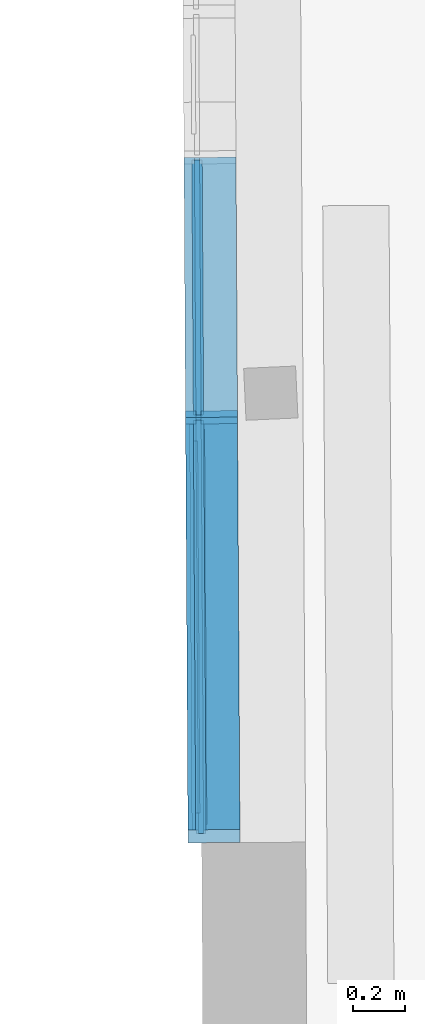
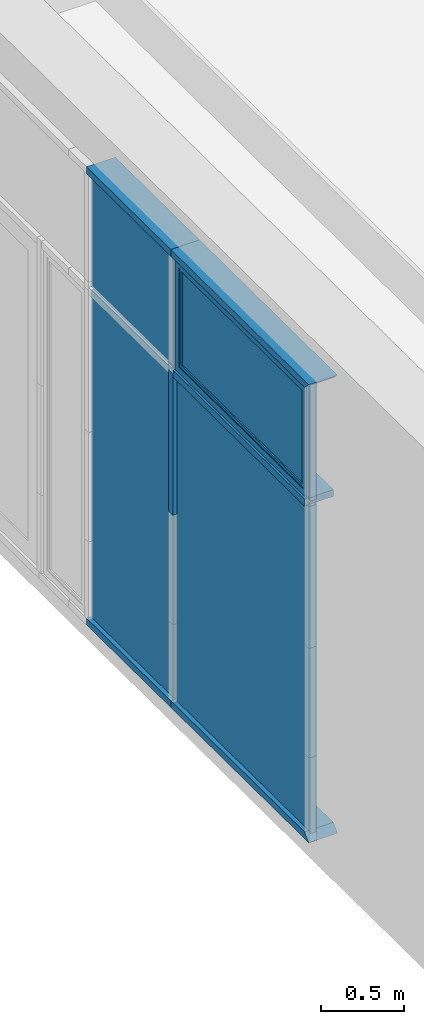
# One storey, part 120 of 196: 11 building element parts, 1 element without a shape of its own.
"""IFC2X3 building model written with IfcOpenShell, lengths in metres."""

from ifc_helpers import new_model, entity, si_unit, converted_unit, derived_unit, money_unit, direction, frame, origin_with_axes, place, context, subcontext, project, spatial, faceted_brep, material, type_object, element, aggregate, save


model = new_model("IFC2X3")

# Units and contexts
model_context = context("Model", 3, precision=1e-05, world=origin_with_axes(), true_north=direction((0.0, 1.0)))
body_context = subcontext(model_context, "Body", "Model", "MODEL_VIEW")
ifc_project = project(units=[si_unit("LENGTHUNIT", "METRE"), si_unit("AREAUNIT", "SQUARE_METRE"), si_unit("VOLUMEUNIT", "CUBIC_METRE"), converted_unit("PLANEANGLEUNIT", "DEGREE", entity("IfcPlaneAngleMeasure", 0.0174532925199), si_unit("PLANEANGLEUNIT", "RADIAN"), dimensions=[0, 0, 0, 0, 0, 0, 0]), money_unit("EUR"), converted_unit("TIMEUNIT", "Year", entity("IfcTimeMeasure", 31556926.0), si_unit("TIMEUNIT", "SECOND"), dimensions=[0, 0, 1, 0, 0, 0, 0]), si_unit("MASSUNIT", "GRAM", prefix="KILO"), si_unit("THERMODYNAMICTEMPERATUREUNIT", "DEGREE_CELSIUS"), si_unit("LUMINOUSINTENSITYUNIT", "LUMEN"), si_unit("ENERGYUNIT", "JOULE", prefix="MEGA"), derived_unit("THERMALCONDUCTANCEUNIT", [(si_unit("POWERUNIT", "WATT"), 1), (si_unit("LENGTHUNIT", "METRE"), -1), (si_unit("THERMODYNAMICTEMPERATUREUNIT", "KELVIN"), -1)]), derived_unit("SPECIFICHEATCAPACITYUNIT", [(si_unit("ENERGYUNIT", "JOULE"), 1), (si_unit("MASSUNIT", "GRAM", prefix="KILO"), -1), (si_unit("THERMODYNAMICTEMPERATUREUNIT", "KELVIN"), -1)]), derived_unit("MASSDENSITYUNIT", [(si_unit("MASSUNIT", "GRAM", prefix="KILO"), 1), (si_unit("VOLUMEUNIT", "CUBIC_METRE"), -1)])], contexts=[model_context])

# Site, building, storey
site_placement = place(None, origin_with_axes())
site = spatial("IfcSite", under=ifc_project, at=site_placement, Name="Gelände", CompositionType="ELEMENT")
building_placement = place(site_placement, origin_with_axes())
building = spatial("IfcBuilding", under=site, at=building_placement, Name="Gebäude", CompositionType="ELEMENT")
storey_placement = place(building_placement, frame((0.0, 0.0, -3.0), z_axis=(0.0, 0.0, 1.0), x_axis=(1.0, 0.0, 0.0)))
storey = spatial("IfcBuildingStorey", under=building, at=storey_placement, Name="KELLERGESCHOSS", CompositionType="ELEMENT", Elevation=-3.0)

# Proxy, building element parts
building_element_proxy_type = type_object("IfcBuildingElementProxyType", Name="Fassadentyp", PredefinedType="NOTDEFINED")
proxy_placement = place(storey_placement, frame((-34.8766751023, 40.9954775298, 0.421025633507), z_axis=(0.0, 0.0, 1.0), x_axis=(1.0, 0.0, 0.0)))
proxy = element("IfcBuildingElementProxy", 1, at=proxy_placement, inside=storey, type_object=building_element_proxy_type, Name="Fassade-002")
ifc_material_1 = material(Name="53_Metall, Aluminium")
building_element_part_1_placement = place(proxy_placement, origin_with_axes())
building_element_part_1 = element("IfcBuildingElementPart", 2, at=building_element_part_1_placement, material=ifc_material_1, Name="53_Metall, Aluminium", context=body_context, shape_type="Brep", body=[
    faceted_brep([(-0.0144974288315, -2.64340364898, 2.48264331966), (-0.00533491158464, -4.20568807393, 2.48264331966), (-0.0103348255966, -4.20571739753, 2.48264331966), (-0.0194973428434, -2.64343297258, 2.48264331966), (-0.0142335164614, -2.68840287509, 2.52764331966), (-0.0055988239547, -4.16068884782, 2.52764331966), (-0.0105987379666, -4.16071817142, 2.52764331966), (-0.0192334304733, -2.68843219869, 2.52764331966)], [[[0, 1, 2, 3]], [[0, 4, 5, 1]], [[1, 5, 6, 2]], [[3, 2, 6, 7]], [[4, 0, 3, 7]], [[5, 4, 7, 6]]]),
    faceted_brep([(-0.00533491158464, -4.20568807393, 2.48264331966), (-0.00533491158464, -4.20568807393, 3.29999988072), (-0.0103348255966, -4.20571739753, 3.29999988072), (-0.0103348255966, -4.20571739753, 2.48264331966), (-0.0055988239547, -4.16068884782, 2.52764331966), (-0.0055988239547, -4.16068884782, 3.25499988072), (-0.0105987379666, -4.16071817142, 3.25499988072), (-0.0105987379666, -4.16071817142, 2.52764331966)], [[[0, 1, 2, 3]], [[0, 4, 5, 1]], [[1, 5, 6, 2]], [[3, 2, 6, 7]], [[4, 0, 3, 7]], [[5, 4, 7, 6]]]),
    faceted_brep([(-0.0144974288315, -2.64340364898, 3.29999988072), (-0.0142335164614, -2.68840287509, 3.25499988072), (-0.0192334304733, -2.68843219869, 3.25499988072), (-0.0194973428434, -2.64343297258, 3.29999988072), (-0.00533491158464, -4.20568807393, 3.29999988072), (-0.0055988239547, -4.16068884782, 3.25499988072), (-0.0105987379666, -4.16071817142, 3.25499988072), (-0.0103348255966, -4.20571739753, 3.29999988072)], [[[0, 1, 2, 3]], [[0, 4, 5, 1]], [[1, 5, 6, 2]], [[3, 2, 6, 7]], [[4, 0, 3, 7]], [[5, 4, 7, 6]]]),
    faceted_brep([(-0.0144974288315, -2.64340364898, 2.48264331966), (-0.0142335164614, -2.68840287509, 2.52764331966), (-0.0192334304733, -2.68843219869, 2.52764331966), (-0.0194973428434, -2.64343297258, 2.48264331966), (-0.0144974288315, -2.64340364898, 3.29999988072), (-0.0142335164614, -2.68840287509, 3.25499988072), (-0.0192334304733, -2.68843219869, 3.25499988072), (-0.0194973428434, -2.64343297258, 3.29999988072)], [[[0, 1, 2, 3]], [[0, 4, 5, 1]], [[1, 5, 6, 2]], [[3, 2, 6, 7]], [[4, 0, 3, 7]], [[5, 4, 7, 6]]]),
    faceted_brep([(0.0355017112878, -2.64311041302, 2.48264331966), (0.0446642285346, -4.20539483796, 2.48264331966), (-0.00533491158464, -4.20568807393, 2.48264331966), (-0.0144974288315, -2.64340364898, 2.48264331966), (0.0356190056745, -2.66311006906, 2.50264331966), (0.044546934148, -4.18539518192, 2.50264331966), (-0.00545220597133, -4.18568841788, 2.50264331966), (-0.0143801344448, -2.66340330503, 2.50264331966)], [[[0, 1, 2, 3]], [[0, 4, 5, 1]], [[1, 5, 6, 2]], [[3, 2, 6, 7]], [[4, 0, 3, 7]], [[5, 4, 7, 6]]]),
    faceted_brep([(0.0446642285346, -4.20539483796, 2.48264331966), (0.0446642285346, -4.20539483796, 3.29999988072), (-0.00533491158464, -4.20568807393, 3.29999988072), (-0.00533491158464, -4.20568807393, 2.48264331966), (0.044546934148, -4.18539518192, 2.50264331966), (0.044546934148, -4.18539518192, 3.27999988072), (-0.00545220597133, -4.18568841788, 3.27999988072), (-0.00545220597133, -4.18568841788, 2.50264331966)], [[[0, 1, 2, 3]], [[0, 4, 5, 1]], [[1, 5, 6, 2]], [[3, 2, 6, 7]], [[4, 0, 3, 7]], [[5, 4, 7, 6]]]),
    faceted_brep([(0.0355017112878, -2.64311041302, 3.29999988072), (0.0356190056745, -2.66311006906, 3.27999988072), (-0.0143801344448, -2.66340330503, 3.27999988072), (-0.0144974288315, -2.64340364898, 3.29999988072), (0.0446642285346, -4.20539483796, 3.29999988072), (0.044546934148, -4.18539518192, 3.27999988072), (-0.00545220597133, -4.18568841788, 3.27999988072), (-0.00533491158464, -4.20568807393, 3.29999988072)], [[[0, 1, 2, 3]], [[0, 4, 5, 1]], [[1, 5, 6, 2]], [[3, 2, 6, 7]], [[4, 0, 3, 7]], [[5, 4, 7, 6]]]),
    faceted_brep([(0.0355017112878, -2.64311041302, 2.48264331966), (0.0356190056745, -2.66311006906, 2.50264331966), (-0.0143801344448, -2.66340330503, 2.50264331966), (-0.0144974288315, -2.64340364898, 2.48264331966), (0.0355017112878, -2.64311041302, 3.29999988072), (0.0356190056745, -2.66311006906, 3.27999988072), (-0.0143801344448, -2.66340330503, 3.27999988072), (-0.0144974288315, -2.64340364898, 3.29999988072)], [[[0, 1, 2, 3]], [[0, 4, 5, 1]], [[1, 5, 6, 2]], [[3, 2, 6, 7]], [[4, 0, 3, 7]], [[5, 4, 7, 6]]]),
    faceted_brep([(0.0354137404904, -2.62811066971, 2.46764331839), (0.0447521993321, -4.22039458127, 2.46764331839), (0.0047528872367, -4.22062917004, 2.46764331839), (-0.00458557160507, -2.62834525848, 2.46764331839), (0.0355017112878, -2.64311041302, 2.48264331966), (0.0446642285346, -4.20539483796, 2.48264331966), (0.00466491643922, -4.20562942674, 2.48264331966), (-0.0044976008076, -2.64334500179, 2.48264331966)], [[[0, 1, 2, 3]], [[0, 4, 5, 1]], [[1, 5, 6, 2]], [[3, 2, 6, 7]], [[4, 0, 3, 7]], [[5, 4, 7, 6]]]),
    faceted_brep([(0.0447521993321, -4.22039458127, 2.46764331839), (0.0447521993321, -4.22039458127, 3.31499988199), (0.0047528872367, -4.22062917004, 3.31499988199), (0.0047528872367, -4.22062917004, 2.46764331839), (0.0446642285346, -4.20539483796, 2.48264331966), (0.0446642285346, -4.20539483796, 3.29999988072), (0.00466491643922, -4.20562942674, 3.29999988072), (0.00466491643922, -4.20562942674, 2.48264331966)], [[[0, 1, 2, 3]], [[0, 4, 5, 1]], [[1, 5, 6, 2]], [[3, 2, 6, 7]], [[4, 0, 3, 7]], [[5, 4, 7, 6]]]),
    faceted_brep([(0.0447521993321, -4.22039458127, 3.31499988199), (0.0354137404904, -2.62811066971, 3.31499988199), (-0.00458557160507, -2.62834525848, 3.31499988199), (0.0047528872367, -4.22062917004, 3.31499988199), (0.0446642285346, -4.20539483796, 3.29999988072), (0.0355017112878, -2.64311041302, 3.29999988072), (-0.0044976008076, -2.64334500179, 3.29999988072), (0.00466491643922, -4.20562942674, 3.29999988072)], [[[0, 1, 2, 3]], [[0, 4, 5, 1]], [[1, 5, 6, 2]], [[3, 2, 6, 7]], [[4, 0, 3, 7]], [[5, 4, 7, 6]]]),
    faceted_brep([(0.0354137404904, -2.62811066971, 3.31499988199), (0.0354137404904, -2.62811066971, 2.46764331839), (-0.00458557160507, -2.62834525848, 2.46764331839), (-0.00458557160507, -2.62834525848, 3.31499988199), (0.0355017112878, -2.64311041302, 3.29999988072), (0.0355017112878, -2.64311041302, 2.48264331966), (-0.0044976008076, -2.64334500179, 2.48264331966), (-0.0044976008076, -2.64334500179, 3.29999988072)], [[[0, 1, 2, 3]], [[0, 4, 5, 1]], [[1, 5, 6, 2]], [[3, 2, 6, 7]], [[4, 0, 3, 7]], [[5, 4, 7, 6]]]),
    faceted_brep([(-0.0141162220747, -2.70840253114, 2.54764331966), (0.0408828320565, -2.70807997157, 2.54764331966), (0.0408828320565, -2.70807997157, 3.23499988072), (-0.0141162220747, -2.70840253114, 3.23499988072), (-0.0143801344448, -2.66340330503, 2.50264331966), (0.0406189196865, -2.66308074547, 2.50264331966), (0.0406189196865, -2.66308074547, 3.27999988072), (-0.0143801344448, -2.66340330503, 3.27999988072)], [[[0, 1, 2, 3]], [[4, 5, 1, 0]], [[1, 5, 6, 2]], [[3, 2, 6, 7]], [[0, 3, 7, 4]], [[7, 6, 5, 4]]]),
    faceted_brep([(-0.00545220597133, -4.18568841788, 2.50264331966), (0.0495468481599, -4.18536585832, 2.50264331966), (0.0495468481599, -4.18536585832, 3.27999988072), (-0.00545220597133, -4.18568841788, 3.27999988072), (-0.0057161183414, -4.14068919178, 2.54764331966), (0.0492829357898, -4.14036663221, 2.54764331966), (0.0492829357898, -4.14036663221, 3.23499988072), (-0.0057161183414, -4.14068919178, 3.23499988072)], [[[0, 1, 2, 3]], [[4, 5, 1, 0]], [[1, 5, 6, 2]], [[3, 2, 6, 7]], [[0, 3, 7, 4]], [[7, 6, 5, 4]]]),
    faceted_brep([(-0.00545220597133, -4.18568841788, 2.50264331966), (0.0495468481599, -4.18536585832, 2.50264331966), (0.0492829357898, -4.14036663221, 2.54764331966), (-0.0057161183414, -4.14068919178, 2.54764331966), (-0.0143801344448, -2.66340330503, 2.50264331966), (0.0406189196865, -2.66308074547, 2.50264331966), (0.0408828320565, -2.70807997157, 2.54764331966), (-0.0141162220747, -2.70840253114, 2.54764331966)], [[[0, 1, 2, 3]], [[4, 5, 1, 0]], [[1, 5, 6, 2]], [[3, 2, 6, 7]], [[0, 3, 7, 4]], [[7, 6, 5, 4]]]),
    faceted_brep([(-0.0143801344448, -2.66340330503, 3.27999988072), (0.0406189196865, -2.66308074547, 3.27999988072), (0.0408828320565, -2.70807997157, 3.23499988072), (-0.0141162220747, -2.70840253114, 3.23499988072), (-0.00545220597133, -4.18568841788, 3.27999988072), (0.0495468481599, -4.18536585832, 3.27999988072), (0.0492829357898, -4.14036663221, 3.23499988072), (-0.0057161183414, -4.14068919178, 3.23499988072)], [[[0, 1, 2, 3]], [[4, 5, 1, 0]], [[1, 5, 6, 2]], [[3, 2, 6, 7]], [[0, 3, 7, 4]], [[7, 6, 5, 4]]]),
])
ifc_material_2 = material(Name="45_Glas, Normalglas")
building_element_part_2_placement = place(proxy_placement, origin_with_axes())
building_element_part_2 = element("IfcBuildingElementPart", 3, at=building_element_part_2_placement, material=ifc_material_2, Name="45_Glas, Normalglas", context=body_context, shape_type="Brep", body=[
    faceted_brep([(-0.00411639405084, -2.70834388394, 2.54764331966), (0.0118833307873, -2.70825004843, 2.54764331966), (0.0202834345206, -4.14053670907, 2.54764331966), (0.00428370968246, -4.14063054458, 2.54764331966), (-0.00411639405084, -2.70834388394, 3.23499988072), (0.0118833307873, -2.70825004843, 3.23499988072), (0.0202834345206, -4.14053670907, 3.23499988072), (0.00428370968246, -4.14063054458, 3.23499988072)], [[[0, 1, 2, 3]], [[4, 5, 1, 0]], [[1, 5, 6, 2]], [[3, 2, 6, 7]], [[0, 3, 7, 4]], [[7, 6, 5, 4]]]),
])
building_element_part_3_placement = place(proxy_placement, origin_with_axes())
building_element_part_3 = element("IfcBuildingElementPart", 4, at=building_element_part_3_placement, material=ifc_material_2, Name="45_Glas, Normalglas", context=body_context, shape_type="Brep", body=[
    faceted_brep([(0.044752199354, -4.220394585, 2.4476433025), (0.0354137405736, -2.6281106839, 2.4476433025), (-0.00458557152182, -2.62834527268, 2.4476433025), (0.00475288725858, -4.22062917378, 2.4476433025), (0.044752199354, -4.220394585, 1.41999997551), (0.044752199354, -4.220394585, 0.61999998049), (0.044752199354, -4.220394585, 0.0350000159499), (0.0354137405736, -2.6281106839, 0.0349999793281), (0.0354137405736, -2.6281106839, 0.61999998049), (0.0354137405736, -2.6281106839, 1.41999997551), (-0.00458557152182, -2.62834527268, 1.41999997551), (-0.00458557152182, -2.62834527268, 0.61999998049), (-0.00458557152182, -2.62834527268, 0.0349999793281), (0.00475288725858, -4.22062917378, 0.0350000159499), (0.00475288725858, -4.22062917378, 0.61999998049), (0.00475288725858, -4.22062917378, 1.41999997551)], [[[0, 1, 2, 3]], [[0, 4, 5, 6, 7, 8, 9, 1]], [[1, 9, 10, 2]], [[3, 2, 10, 11, 12, 13, 14, 15]], [[4, 0, 3, 15]], [[5, 4, 15, 14]], [[6, 5, 14, 13]], [[7, 6, 13, 12]], [[8, 7, 12, 11]], [[9, 8, 11, 10]]]),
])
building_element_part_4_placement = place(proxy_placement, origin_with_axes())
building_element_part_4 = element("IfcBuildingElementPart", 5, at=building_element_part_4_placement, material=ifc_material_2, Name="45_Glas, Normalglas", context=body_context, shape_type="Brep", body=[
    faceted_brep([(0.035296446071, -2.6081110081, 2.4476433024), (0.029544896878, -1.62742464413, 2.4476433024), (-0.0104544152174, -1.6276592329, 2.4476433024), (-0.0047028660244, -2.60834559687, 2.4476433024), (0.035296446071, -2.6081110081, 1.41999996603), (0.035296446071, -2.6081110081, 0.619999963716), (0.035296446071, -2.6081110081, 0.0349999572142), (0.029544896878, -1.62742464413, 0.0349999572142), (0.029544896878, -1.62742464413, 0.619999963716), (0.029544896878, -1.62742464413, 1.41999996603), (-0.0104544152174, -1.6276592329, 1.41999996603), (-0.0104544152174, -1.6276592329, 0.619999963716), (-0.0104544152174, -1.6276592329, 0.0349999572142), (-0.0047028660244, -2.60834559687, 0.0349999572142), (-0.0047028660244, -2.60834559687, 0.619999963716), (-0.0047028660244, -2.60834559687, 1.41999996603)], [[[0, 1, 2, 3]], [[0, 4, 5, 6, 7, 8, 9, 1]], [[1, 9, 10, 2]], [[3, 2, 10, 11, 12, 13, 14, 15]], [[4, 0, 3, 15]], [[5, 4, 15, 14]], [[6, 5, 14, 13]], [[7, 6, 13, 12]], [[8, 7, 12, 11]], [[9, 8, 11, 10]]]),
])
building_element_part_5_placement = place(proxy_placement, origin_with_axes())
building_element_part_5 = element("IfcBuildingElementPart", 6, at=building_element_part_5_placement, material=ifc_material_2, Name="45_Glas, Normalglas", context=body_context, shape_type="Brep", body=[
    faceted_brep([(0.0352964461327, -2.60811101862, 3.31499989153), (0.0295448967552, -1.62742462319, 3.31499989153), (-0.0104544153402, -1.62765921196, 3.31499989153), (-0.0047028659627, -2.60834560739, 3.31499989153), (0.0352964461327, -2.60811101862, 2.51999998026), (0.0352964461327, -2.60811101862, 2.46764331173), (0.0295448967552, -1.62742462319, 2.46764331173), (0.0295448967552, -1.62742462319, 2.51999998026), (-0.0104544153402, -1.62765921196, 2.51999998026), (-0.0104544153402, -1.62765921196, 2.46764331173), (-0.0047028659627, -2.60834560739, 2.46764331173), (-0.0047028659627, -2.60834560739, 2.51999998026)], [[[0, 1, 2, 3]], [[0, 4, 5, 6, 7, 1]], [[1, 7, 8, 2]], [[3, 2, 8, 9, 10, 11]], [[4, 0, 3, 11]], [[5, 4, 11, 10]], [[6, 5, 10, 9]], [[7, 6, 9, 8]]]),
])
building_element_part_6_placement = place(proxy_placement, origin_with_axes())
building_element_part_6 = element("IfcBuildingElementPart", 7, at=building_element_part_6_placement, material=ifc_material_1, Name="53_Metall, Aluminium", context=body_context, shape_type="Brep", body=[
    faceted_brep([(0.0253552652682, -2.61816948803, 0.0349999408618), (0.00535560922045, -2.61828678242, 0.0349999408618), (0.00535560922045, -2.61828678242, 0.0499999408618), (-0.034643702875, -2.61852137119, 0.0499999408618), (-0.034643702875, -2.61852137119, -5.91381610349e-08), (0.165352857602, -2.61734842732, -5.91381610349e-08), (0.165352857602, -2.61734842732, 0.0499999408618), (0.0253552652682, -2.61816948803, 0.0499999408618), (0.019486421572, -1.61748344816, 0.0349999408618), (-0.00051323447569, -1.61760074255, 0.0349999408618), (-0.00051323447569, -1.61760074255, 0.0499999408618), (-0.0405125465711, -1.61783533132, 0.0499999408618), (-0.0405125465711, -1.61783533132, -5.91381610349e-08), (0.159484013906, -1.61666238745, -5.91381610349e-08), (0.159484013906, -1.61666238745, 0.0499999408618), (0.019486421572, -1.61748344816, 0.0499999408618)], [[[0, 1, 2, 3, 4, 5, 6, 7]], [[1, 0, 8, 9]], [[10, 2, 1, 9]], [[2, 10, 11, 3]], [[12, 4, 3, 11]], [[13, 5, 4, 12]], [[14, 6, 5, 13]], [[15, 7, 6, 14]], [[0, 7, 15, 8]], [[8, 15, 14, 13, 12, 11, 10, 9]]]),
])
building_element_part_7_placement = place(proxy_placement, origin_with_axes())
building_element_part_7 = element("IfcBuildingElementPart", 8, at=building_element_part_7_placement, material=ifc_material_1, Name="53_Metall, Aluminium", context=body_context, shape_type="Brep", body=[
    faceted_brep([(0.0253552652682, -2.61816948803, 3.314999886), (0.0253552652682, -2.61816948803, 3.299999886), (0.165352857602, -2.61734842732, 3.299999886), (0.165352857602, -2.61734842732, 3.349999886), (-0.034643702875, -2.61852137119, 3.349999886), (-0.034643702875, -2.61852137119, 3.299999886), (0.00535560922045, -2.61828678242, 3.299999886), (0.00535560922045, -2.61828678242, 3.314999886), (0.019486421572, -1.61748344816, 3.314999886), (0.019486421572, -1.61748344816, 3.299999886), (0.159484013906, -1.61666238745, 3.299999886), (0.159484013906, -1.61666238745, 3.349999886), (-0.0405125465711, -1.61783533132, 3.349999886), (-0.0405125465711, -1.61783533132, 3.299999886), (-0.00051323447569, -1.61760074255, 3.299999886), (-0.00051323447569, -1.61760074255, 3.314999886)], [[[0, 1, 2, 3, 4, 5, 6, 7]], [[0, 8, 9, 1]], [[9, 10, 2, 1]], [[10, 11, 3, 2]], [[11, 12, 4, 3]], [[12, 13, 5, 4]], [[6, 5, 13, 14]], [[14, 15, 7, 6]], [[7, 15, 8, 0]], [[8, 15, 14, 13, 12, 11, 10, 9]]]),
])
building_element_part_8_placement = place(proxy_placement, origin_with_axes())
building_element_part_8 = element("IfcBuildingElementPart", 9, at=building_element_part_8_placement, material=ifc_material_1, Name="53_Metall, Aluminium", context=body_context, shape_type="Brep", body=[
    faceted_brep([(0.0347523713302, -4.22045323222, 0.0349999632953), (0.0147527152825, -4.2205705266, 0.0349999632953), (0.0146647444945, -4.2055707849, 0.0499999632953), (-0.0253345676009, -4.20580537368, 0.0499999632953), (-0.0250413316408, -4.25580451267, -3.67047179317e-08), (0.174955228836, -4.25463156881, -3.67047179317e-08), (0.174661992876, -4.20463242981, 0.0499999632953), (0.0346644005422, -4.20545349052, 0.0499999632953), (0.0253552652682, -2.61816948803, 0.0349999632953), (0.00535560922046, -2.61828678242, 0.0349999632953), (0.00535560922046, -2.61828678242, 0.0499999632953), (-0.034643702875, -2.61852137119, 0.0499999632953), (-0.034643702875, -2.61852137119, -3.67047179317e-08), (0.165352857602, -2.61734842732, -3.67047179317e-08), (0.165352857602, -2.61734842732, 0.0499999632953), (0.0253552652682, -2.61816948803, 0.0499999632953)], [[[0, 1, 2, 3, 4, 5, 6, 7]], [[1, 0, 8, 9]], [[10, 2, 1, 9]], [[2, 10, 11, 3]], [[12, 4, 3, 11]], [[13, 5, 4, 12]], [[14, 6, 5, 13]], [[15, 7, 6, 14]], [[0, 7, 15, 8]], [[8, 15, 14, 13, 12, 11, 10, 9]]]),
])
building_element_part_9_placement = place(proxy_placement, origin_with_axes())
building_element_part_9 = element("IfcBuildingElementPart", 10, at=building_element_part_9_placement, material=ifc_material_1, Name="53_Metall, Aluminium", context=body_context, shape_type="Brep", body=[
    faceted_brep([(0.0347523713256, -4.22045323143, 3.314999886), (0.0346644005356, -4.20545348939, 3.299999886), (0.17466199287, -4.20463242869, 3.299999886), (0.174955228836, -4.25463156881, 3.349999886), (-0.0250413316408, -4.25580451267, 3.349999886), (-0.0253345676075, -4.20580537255, 3.299999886), (0.0146647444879, -4.20557078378, 3.299999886), (0.0147527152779, -4.22057052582, 3.314999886), (0.0253552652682, -2.61816948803, 3.314999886), (0.0253552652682, -2.61816948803, 3.299999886), (0.165352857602, -2.61734842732, 3.299999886), (0.165352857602, -2.61734842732, 3.349999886), (-0.034643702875, -2.61852137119, 3.349999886), (-0.034643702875, -2.61852137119, 3.299999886), (0.00535560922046, -2.61828678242, 3.299999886), (0.00535560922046, -2.61828678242, 3.314999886)], [[[0, 1, 2, 3, 4, 5, 6, 7]], [[0, 8, 9, 1]], [[9, 10, 2, 1]], [[10, 11, 3, 2]], [[11, 12, 4, 3]], [[12, 13, 5, 4]], [[6, 5, 13, 14]], [[14, 15, 7, 6]], [[7, 15, 8, 0]], [[8, 15, 14, 13, 12, 11, 10, 9]]]),
])
building_element_part_10_placement = place(proxy_placement, origin_with_axes())
building_element_part_10 = element("IfcBuildingElementPart", 11, at=building_element_part_10_placement, material=ifc_material_1, Name="53_Metall, Aluminium", context=body_context, shape_type="Brep", body=[
    faceted_brep([(0.0254139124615, -2.62816931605, 2.45764332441), (0.0255018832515, -2.64316905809, 2.45764332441), (0.165499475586, -2.64234799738, 2.45764332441), (0.165206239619, -2.59234885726, 2.45764332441), (0.0252086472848, -2.59316991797, 2.45764332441), (0.0252966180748, -2.60816966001, 2.45764332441), (0.00529696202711, -2.60828695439, 2.45764332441), (0.00520899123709, -2.59328721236, 2.45764332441), (-0.0347903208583, -2.59352180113, 2.45764332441), (-0.0344970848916, -2.64352094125, 2.45764332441), (0.00550222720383, -2.64328635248, 2.45764332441), (0.00541425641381, -2.62828661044, 2.45764332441), (0.0254139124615, -2.62816931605, 1.41999997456), (0.0255018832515, -2.64316905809, 1.41999997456), (0.165499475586, -2.64234799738, 1.41999997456), (0.165206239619, -2.59234885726, 1.41999997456), (0.0252086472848, -2.59316991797, 1.41999997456), (0.0252966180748, -2.60816966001, 1.41999997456), (0.00529696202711, -2.60828695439, 1.41999997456), (0.00520899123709, -2.59328721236, 1.41999997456), (-0.0347903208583, -2.59352180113, 1.41999997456), (-0.0344970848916, -2.64352094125, 1.41999997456), (0.00550222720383, -2.64328635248, 1.41999997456), (0.00541425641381, -2.62828661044, 1.41999997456)], [[[0, 1, 2, 3, 4, 5, 6, 7, 8, 9, 10, 11]], [[1, 0, 12, 13]], [[1, 13, 14, 2]], [[3, 2, 14, 15]], [[4, 3, 15, 16]], [[4, 16, 17, 5]], [[5, 17, 18, 6]], [[7, 6, 18, 19]], [[19, 20, 8, 7]], [[9, 8, 20, 21]], [[22, 10, 9, 21]], [[11, 10, 22, 23]], [[0, 11, 23, 12]], [[23, 22, 21, 20, 19, 18, 17, 16, 15, 14, 13, 12]]]),
])
building_element_part_11_placement = place(proxy_placement, origin_with_axes())
building_element_part_11 = element("IfcBuildingElementPart", 12, at=building_element_part_11_placement, material=ifc_material_1, Name="53_Metall, Aluminium", context=body_context, shape_type="Brep", body=[
    faceted_brep([(0.0346644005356, -4.20545348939, 2.44764331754), (0.0346644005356, -4.20545348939, 2.43264331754), (0.17466199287, -4.20463242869, 2.43264331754), (0.17466199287, -4.20463242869, 2.48264331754), (0.0346644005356, -4.20545348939, 2.48264331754), (0.0346644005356, -4.20545348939, 2.46764331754), (0.0146647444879, -4.20557078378, 2.46764331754), (0.0146647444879, -4.20557078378, 2.48264331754), (-0.0253345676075, -4.20580537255, 2.48264331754), (-0.0253345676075, -4.20580537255, 2.43264331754), (0.0146647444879, -4.20557078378, 2.43264331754), (0.0146647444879, -4.20557078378, 2.44764331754), (0.0255018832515, -2.64316905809, 2.44764331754), (0.0255018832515, -2.64316905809, 2.43264331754), (0.165499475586, -2.64234799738, 2.43264331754), (0.165499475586, -2.64234799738, 2.48264331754), (0.0255018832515, -2.64316905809, 2.48264331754), (0.0255018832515, -2.64316905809, 2.46764331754), (0.00550222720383, -2.64328635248, 2.46764331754), (0.00550222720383, -2.64328635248, 2.48264331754), (-0.0344970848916, -2.64352094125, 2.48264331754), (-0.0344970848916, -2.64352094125, 2.43264331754), (0.00550222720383, -2.64328635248, 2.43264331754), (0.00550222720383, -2.64328635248, 2.44764331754)], [[[0, 1, 2, 3, 4, 5, 6, 7, 8, 9, 10, 11]], [[1, 0, 12, 13]], [[1, 13, 14, 2]], [[2, 14, 15, 3]], [[4, 3, 15, 16]], [[4, 16, 17, 5]], [[5, 17, 18, 6]], [[7, 6, 18, 19]], [[19, 20, 8, 7]], [[8, 20, 21, 9]], [[22, 10, 9, 21]], [[11, 10, 22, 23]], [[0, 11, 23, 12]], [[23, 22, 21, 20, 19, 18, 17, 16, 15, 14, 13, 12]]]),
])
aggregate(proxy, [building_element_part_1, building_element_part_2, building_element_part_3, building_element_part_4, building_element_part_5, building_element_part_6, building_element_part_7, building_element_part_8, building_element_part_9, building_element_part_10, building_element_part_11])

save(model, "model.ifc")
